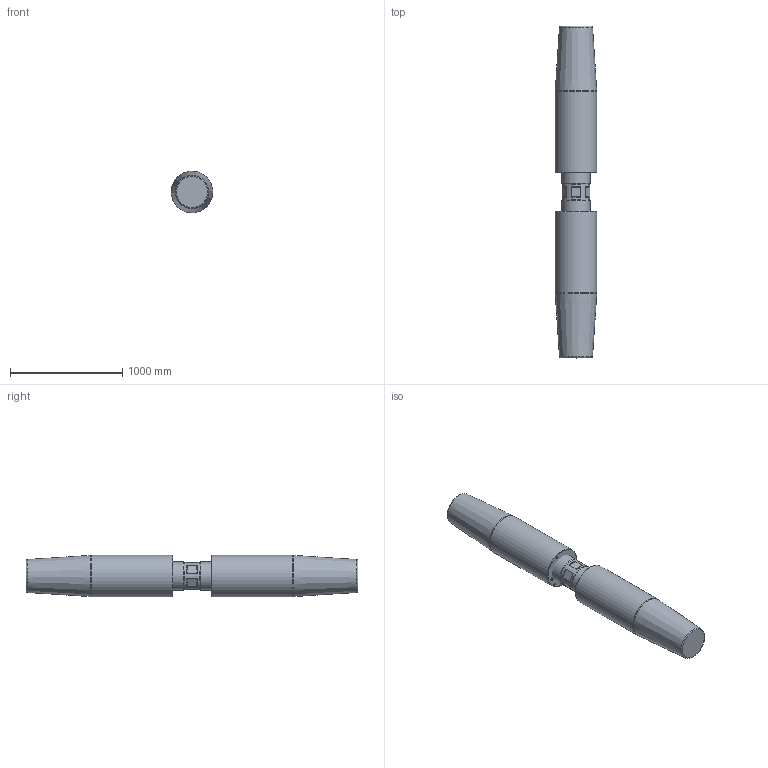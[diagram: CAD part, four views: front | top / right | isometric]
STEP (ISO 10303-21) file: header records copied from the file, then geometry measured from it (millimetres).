
FILE_DESCRIPTION(/* description */ (''),/* implementation_level */ '2;1');
FILE_NAME(/* name */ 'D:\Clienti\Redaelli (inventor)\CYA\STEP\Arrangement\CYA128 52 061 2.stp',/* time_stamp */ '2021-05-09T10:43:51+02:00',/* author */ ('fabri'),/* organization */ (''),/* preprocessor_version */ 'ST-DEVELOPER v16.13',/* originating_system */ 'Autodesk Inventor 2018',/* authorisation */ '');
FILE_SCHEMA (('AUTOMOTIVE_DESIGN { 1 0 10303 214 3 1 1 }'));
Length unit declared in the file: millimetre
Products named in the file (4): CYA012-54-062-0; TBF012-12-012-1; TBF012-13-012-0; TBF012-13-012-0_1
Assembly tree (3 placements, depth 2):
  CYA012-54-062-0
    TBF012-12-012-1
    TBF012-13-012-0
    TBF012-13-012-0_1
Bounding box: 369.77 x 2962 x 369.77 mm (x, y, z)
Volume: 322289360.3 mm3; surface area: 4389195.7 mm2
Topology: 3 solids, 3 shells, 511 faces, 1371 edges, 912 vertices
Faces by surface type: bspline 249, plane 219, cylinder 25, cone 14, torus 4
Full cylindrical faces by diameter (mm): 17.294 x8, 249 x1, 255 x2, 370 x2
Entity records: 17503 total; most frequent: CARTESIAN_POINT 6477, ORIENTED_EDGE 2664, DIRECTION 1390, EDGE_CURVE 1332, VERTEX_POINT 904, LINE 772, VECTOR 772, EDGE_LOOP 588
